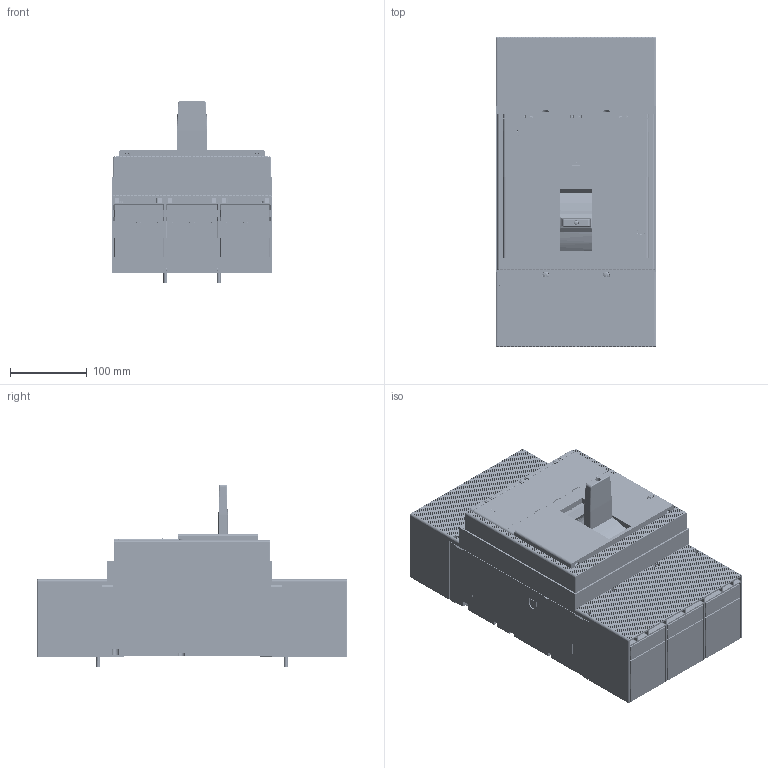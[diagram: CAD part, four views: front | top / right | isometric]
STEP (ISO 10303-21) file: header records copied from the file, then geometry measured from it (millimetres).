
FILE_DESCRIPTION((''),'2;1');
FILE_NAME('10000849071_ASM','2013-12-12T',('MSuresh'),(''),'PRO/ENGINEER BY PARAMETRIC TECHNOLOGY CORPORATION, 2010140','PRO/ENGINEER BY PARAMETRIC TECHNOLOGY CORPORATION, 2010140','');
FILE_SCHEMA(('CONFIG_CONTROL_DESIGN'));
Products named in the file (7): 10000475870; 10000475871; 10000848816; 10000475872_ASM; 10000848905; 10000789732; 10000849071_ASM
Assembly tree (15 placements, depth 3):
  10000849071_ASM
    10000475872_ASM
      10000475870
      10000475871
      10000848816  x4
    10000848905  x2
    10000789732  x6
Bounding box: 210 x 404 x 238.5 mm (x, y, z)
Surface area: 1727352.7 mm2 (no closed solid volume)
Topology: 0 solids, 57 shells, 13557 faces, 39228 edges, 25683 vertices
Faces by surface type: plane 8875, cylinder 3508, torus 410, cone 373, bspline 230, sphere 127, extrusion 32, revolution 2
Entity records: 374021 total; most frequent: CARTESIAN_POINT 87066, ORIENTED_EDGE 62304, DIRECTION 57472, EDGE_CURVE 31170, VECTOR 22406, LINE 22374, VERTEX_POINT 20468, AXIS2_PLACEMENT_3D 17532
